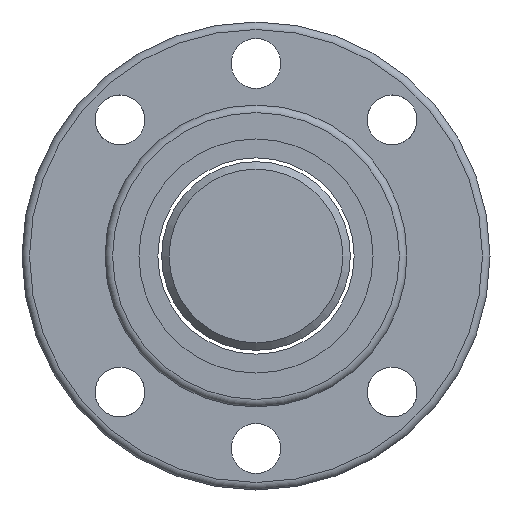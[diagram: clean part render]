
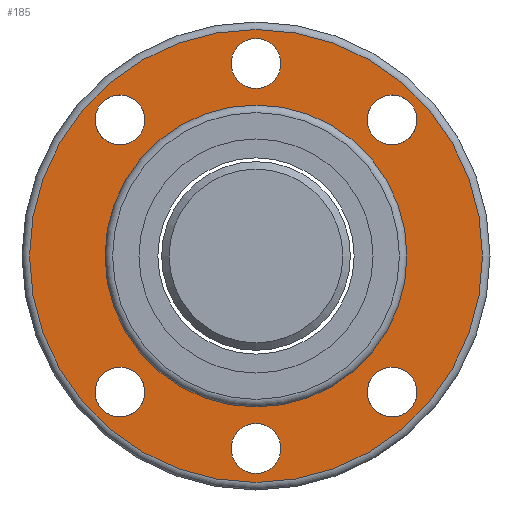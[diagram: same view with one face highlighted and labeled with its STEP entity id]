
A CAD part, left-side view. The second image highlights one B-rep face of the part: STEP entity #185.
In plain terms, the highlighted planar face has unit normal (-1, 0, 0).
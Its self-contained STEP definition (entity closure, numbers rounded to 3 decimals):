
#138=PLANE('',#698);
#155=FACE_OUTER_BOUND('',#351,.T.);
#185=ADVANCED_FACE('',(#253,#254,#255,#256,#257,#258,#155,#259),#138,.T.);
#253=FACE_BOUND('',#345,.T.);
#254=FACE_BOUND('',#346,.T.);
#255=FACE_BOUND('',#347,.T.);
#256=FACE_BOUND('',#348,.T.);
#257=FACE_BOUND('',#349,.T.);
#258=FACE_BOUND('',#350,.T.);
#259=FACE_BOUND('',#352,.T.);
#345=EDGE_LOOP('',(#443));
#346=EDGE_LOOP('',(#444));
#347=EDGE_LOOP('',(#445));
#348=EDGE_LOOP('',(#446));
#349=EDGE_LOOP('',(#447));
#350=EDGE_LOOP('',(#448));
#351=EDGE_LOOP('',(#449));
#352=EDGE_LOOP('',(#450));
#443=ORIENTED_EDGE('',*,*,#568,.F.);
#444=ORIENTED_EDGE('',*,*,#569,.F.);
#445=ORIENTED_EDGE('',*,*,#570,.F.);
#446=ORIENTED_EDGE('',*,*,#571,.F.);
#447=ORIENTED_EDGE('',*,*,#572,.F.);
#448=ORIENTED_EDGE('',*,*,#573,.F.);
#449=ORIENTED_EDGE('',*,*,#567,.T.);
#450=ORIENTED_EDGE('',*,*,#574,.F.);
#518=VERTEX_POINT('',#1001);
#519=VERTEX_POINT('',#1004);
#520=VERTEX_POINT('',#1006);
#521=VERTEX_POINT('',#1008);
#522=VERTEX_POINT('',#1010);
#523=VERTEX_POINT('',#1012);
#524=VERTEX_POINT('',#1014);
#525=VERTEX_POINT('',#1016);
#567=EDGE_CURVE('',#518,#518,#616,.T.);
#568=EDGE_CURVE('',#519,#519,#617,.T.);
#569=EDGE_CURVE('',#520,#520,#618,.T.);
#570=EDGE_CURVE('',#521,#521,#619,.T.);
#571=EDGE_CURVE('',#522,#522,#620,.T.);
#572=EDGE_CURVE('',#523,#523,#621,.T.);
#573=EDGE_CURVE('',#524,#524,#622,.T.);
#574=EDGE_CURVE('',#525,#525,#623,.T.);
#616=CIRCLE('',#689,30.);
#617=CIRCLE('',#691,3.3);
#618=CIRCLE('',#692,3.3);
#619=CIRCLE('',#693,3.3);
#620=CIRCLE('',#694,3.3);
#621=CIRCLE('',#695,3.3);
#622=CIRCLE('',#696,3.3);
#623=CIRCLE('',#697,20.);
#689=AXIS2_PLACEMENT_3D('',#1000,#836,#837);
#691=AXIS2_PLACEMENT_3D('',#1003,#840,#841);
#692=AXIS2_PLACEMENT_3D('',#1005,#842,#843);
#693=AXIS2_PLACEMENT_3D('',#1007,#844,#845);
#694=AXIS2_PLACEMENT_3D('',#1009,#846,#847);
#695=AXIS2_PLACEMENT_3D('',#1011,#848,#849);
#696=AXIS2_PLACEMENT_3D('',#1013,#850,#851);
#697=AXIS2_PLACEMENT_3D('',#1015,#852,#853);
#698=AXIS2_PLACEMENT_3D('',#1017,#854,#855);
#836=DIRECTION('',(-1.,0.,0.));
#837=DIRECTION('',(0.,0.,1.));
#840=DIRECTION('',(-1.,0.,0.));
#841=DIRECTION('',(0.,0.,1.));
#842=DIRECTION('',(-1.,0.,0.));
#843=DIRECTION('',(0.,0.,1.));
#844=DIRECTION('',(-1.,0.,0.));
#845=DIRECTION('',(0.,0.,1.));
#846=DIRECTION('',(-1.,0.,0.));
#847=DIRECTION('',(0.,0.,1.));
#848=DIRECTION('',(-1.,0.,0.));
#849=DIRECTION('',(0.,0.,1.));
#850=DIRECTION('',(-1.,0.,0.));
#851=DIRECTION('',(0.,0.,1.));
#852=DIRECTION('',(-1.,0.,0.));
#853=DIRECTION('',(0.,0.,1.));
#854=DIRECTION('',(-1.,0.,0.));
#855=DIRECTION('',(0.,0.,1.));
#1000=CARTESIAN_POINT('',(-25.,0.,0.));
#1001=CARTESIAN_POINT('',(-25.,0.,30.));
#1003=CARTESIAN_POINT('',(-25.,18.031,18.031));
#1004=CARTESIAN_POINT('',(-25.,18.031,21.331));
#1005=CARTESIAN_POINT('',(-25.,18.031,-18.031));
#1006=CARTESIAN_POINT('',(-25.,18.031,-14.731));
#1007=CARTESIAN_POINT('',(-25.,0.,-25.5));
#1008=CARTESIAN_POINT('',(-25.,0.,-22.2));
#1009=CARTESIAN_POINT('',(-25.,-18.031,-18.031));
#1010=CARTESIAN_POINT('',(-25.,-18.031,-14.731));
#1011=CARTESIAN_POINT('',(-25.,-18.031,18.031));
#1012=CARTESIAN_POINT('',(-25.,-18.031,21.331));
#1013=CARTESIAN_POINT('',(-25.,0.,25.5));
#1014=CARTESIAN_POINT('',(-25.,0.,28.8));
#1015=CARTESIAN_POINT('',(-25.,0.,0.));
#1016=CARTESIAN_POINT('',(-25.,0.,20.));
#1017=CARTESIAN_POINT('',(-25.,25.,0.));
